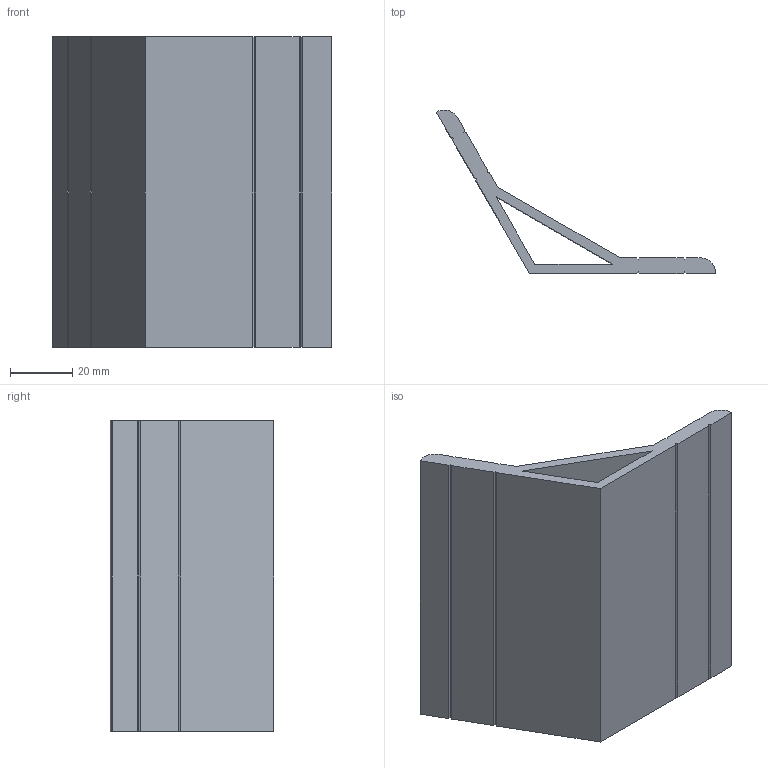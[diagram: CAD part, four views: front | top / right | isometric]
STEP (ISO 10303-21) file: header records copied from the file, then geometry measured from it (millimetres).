
FILE_DESCRIPTION (( 'STEP AP203' ), '1' );
FILE_NAME ('WA60120.STEP', '2024-02-19T11:59:37', ( '' ), ( '' ), 'SwSTEP 2.0', 'SolidWorks 2022', '' );
FILE_SCHEMA (( 'CONFIG_CONTROL_DESIGN' ));
Length unit declared in the file: millimetre
Products named in the file (1): WA60120
Bounding box: 90 x 52.63 x 100 mm (x, y, z)
Volume: 60356.6 mm3; surface area: 34155.2 mm2
Topology: 1 solids, 1 shells, 36 faces, 102 edges, 68 vertices
Faces by surface type: plane 34, cylinder 2
Entity records: 1231 total; most frequent: CARTESIAN_POINT 207, ORIENTED_EDGE 204, DIRECTION 180, EDGE_CURVE 102, VECTOR 98, LINE 98, VERTEX_POINT 68, AXIS2_PLACEMENT_3D 41
